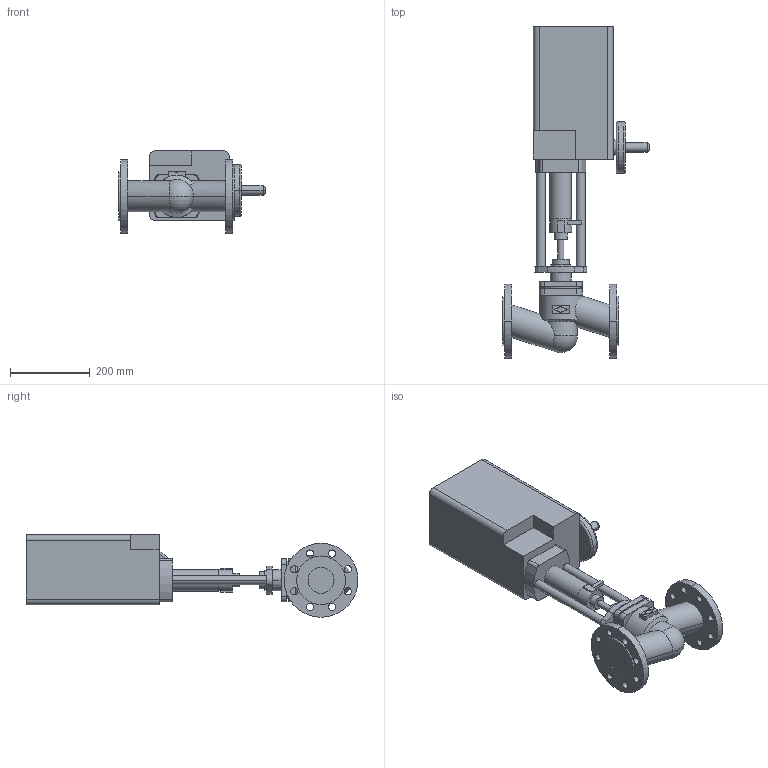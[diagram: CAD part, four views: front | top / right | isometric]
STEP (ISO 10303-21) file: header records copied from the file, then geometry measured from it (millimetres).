
FILE_DESCRIPTION(('OneSpaceDesigner STEP Export'),'2;1');
FILE_NAME('c000001190.stp','2005-01-05T12:51:16',(''),(''),'OneSpace Designer STEP processor (Jan. 2003) for AP203(Solid Model)','OneSpace Designer 12.01D 09-Jul-2004 (C) CoCreate Software GmbH','');
FILE_SCHEMA(('CONFIG_CONTROL_DESIGN'));
Length unit declared in the file: millimetre
Products named in the file (1): 1
Bounding box: 366.6 x 832 x 206.5 mm (x, y, z)
Volume: 15944057.1 mm3; surface area: 691001.4 mm2
Topology: 1 solids, 1 shells, 189 faces, 476 edges, 314 vertices
Faces by surface type: cylinder 100, plane 79, torus 6, cone 2, sphere 2
Entity records: 5550 total; most frequent: CARTESIAN_POINT 1156, ORIENTED_EDGE 948, DIRECTION 814, EDGE_CURVE 474, VERTEX_POINT 314, AXIS2_PLACEMENT_3D 289, EDGE_LOOP 252, VECTOR 236
